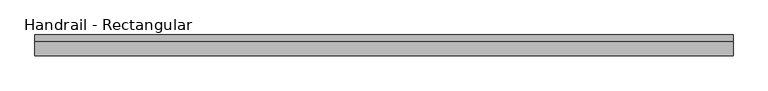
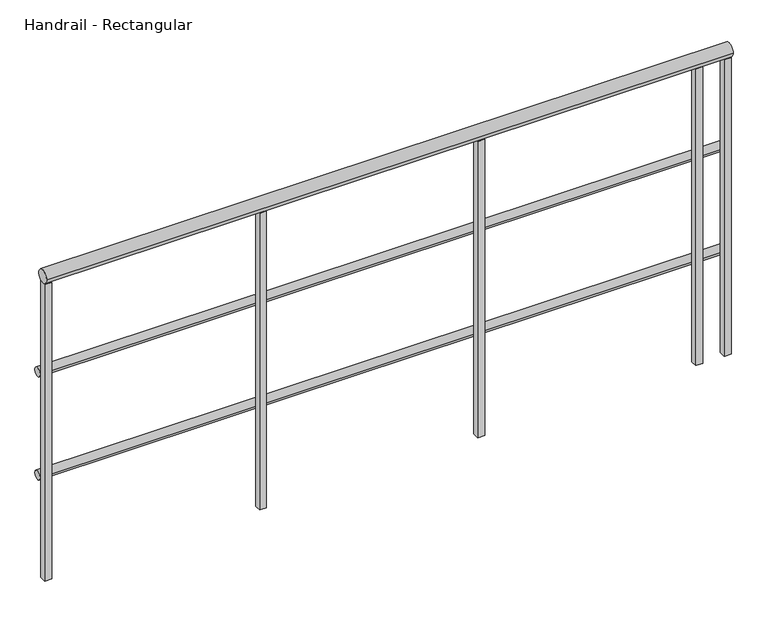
"""IFC4 building model written with IfcOpenShell, lengths in millimetres: railing geometry, Handrail - Rectangular."""

from ifc_helpers import new_model, si_unit, point, frame, frame_2d, origin, place, context, project, spatial, polyline, circle_curve, trimmed, segment, composite_curve, outline, extrude, source, transform, mapped, element, save


def handrail_rectangular_85729334(model_context):
    return source(origin(), model_context, "Body", "SweptSolid", [
        extrude(outline(composite_curve([segment(trimmed(circle_curve(frame_2d((6636.2316867, 9740.9)), 12.7), [point((6648.9316867, 9740.9))], [point((6623.5316867, 9740.9))], False, "CARTESIAN"), True, "CONTINUOUS"), segment(trimmed(circle_curve(frame_2d((6636.2316867, 9740.9)), 12.7), [point((6623.5316867, 9740.9))], [point((6648.9316867, 9740.9))], False, "CARTESIAN"), True, "CONTINUOUS")], self_intersect=False)), frame((-15124.0839563, 0.0, 0.0), z_axis=(1.0, 0.0, 0.0), x_axis=(0.0, 1.0, 0.0)), (0.0, 0.0, 1.0), 1917.7),
        extrude(outline(composite_curve([segment(trimmed(circle_curve(frame_2d((6636.2316867, 9436.1)), 12.7), [point((6648.9316867, 9436.1))], [point((6623.5316867, 9436.1))], False, "CARTESIAN"), True, "CONTINUOUS"), segment(trimmed(circle_curve(frame_2d((6636.2316867, 9436.1)), 12.7), [point((6623.5316867, 9436.1))], [point((6648.9316867, 9436.1))], False, "CARTESIAN"), True, "CONTINUOUS")], self_intersect=False)), frame((-15124.0839563, 0.0, 0.0), z_axis=(1.0, 0.0, 0.0), x_axis=(0.0, 1.0, 0.0)), (0.0, 0.0, 1.0), 1917.7),
        extrude(outline(composite_curve([segment(trimmed(circle_curve(frame_2d((6610.8316867, 10039.35)), 19.05), [point((6629.8816867, 10039.35))], [point((6591.7816867, 10039.35))], False, "CARTESIAN"), True, "CONTINUOUS"), segment(trimmed(circle_curve(frame_2d((6610.8316867, 10039.35)), 19.05), [point((6591.7816867, 10039.35))], [point((6629.8816867, 10039.35))], False, "CARTESIAN"), True, "CONTINUOUS")], self_intersect=False)), frame((-15124.0839563, 0.0, 0.0), z_axis=(1.0, 0.0, 0.0), x_axis=(0.0, 1.0, 0.0)), (0.0, 0.0, 1.0), 1917.7),
        extrude(outline(polyline([(-13304.8089563, 6601.3066867), (-13304.8089563, 6620.3566867), (-13285.7589563, 6620.3566867), (-13285.7589563, 6601.3066867), (-13304.8089563, 6601.3066867)])), frame((0.0, 0.0, 9144.0), z_axis=(0.0, 0.0, 1.0), x_axis=(1.0, 0.0, 0.0)), (0.0, 0.0, 1.0), 876.3),
        extrude(outline(polyline([(-13914.4089563, 6601.3066867), (-13914.4089563, 6620.3566867), (-13895.3589563, 6620.3566867), (-13895.3589563, 6601.3066867), (-13914.4089563, 6601.3066867)])), frame((0.0, 0.0, 9144.0), z_axis=(0.0, 0.0, 1.0), x_axis=(1.0, 0.0, 0.0)), (0.0, 0.0, 1.0), 876.3),
        extrude(outline(polyline([(-14524.0089563, 6601.3066867), (-14524.0089563, 6620.3566867), (-14504.9589563, 6620.3566867), (-14504.9589563, 6601.3066867), (-14524.0089563, 6601.3066867)])), frame((0.0, 0.0, 9144.0), z_axis=(0.0, 0.0, 1.0), x_axis=(1.0, 0.0, 0.0)), (0.0, 0.0, 1.0), 876.3),
        extrude(outline(polyline([(-13225.4339563, 6601.3066867), (-13225.4339563, 6620.3566867), (-13206.3839563, 6620.3566867), (-13206.3839563, 6601.3066867), (-13225.4339563, 6601.3066867)])), frame((0.0, 0.0, 9144.0), z_axis=(0.0, 0.0, 1.0), x_axis=(1.0, 0.0, 0.0)), (0.0, 0.0, 1.0), 876.3),
        extrude(outline(polyline([(-15124.0839563, 6601.3066867), (-15124.0839563, 6620.3566867), (-15105.0339563, 6620.3566867), (-15105.0339563, 6601.3066867), (-15124.0839563, 6601.3066867)])), frame((0.0, 0.0, 9144.0), z_axis=(0.0, 0.0, 1.0), x_axis=(1.0, 0.0, 0.0)), (0.0, 0.0, 1.0), 876.3),
    ])


if __name__ == "__main__":
    model = new_model("IFC4")
    model_context = context("Model", 3, world=origin())
    ifc_project = project(units=[si_unit("LENGTHUNIT", "METRE", prefix="MILLI")], contexts=[model_context])
    site = spatial("IfcSite", under=ifc_project)
    building = spatial("IfcBuilding", under=site)
    placement = place(None, origin())
    handrail_rectangular_shape = handrail_rectangular_85729334(model_context)
    element("IfcRailing", 1, ObjectType="Handrail - Rectangular", at=placement, inside=building, context=model_context, shape_type="MappedRepresentation", body=[
        mapped(handrail_rectangular_shape, transform((0.0, 0.0, 0.0), x_axis=(1.0, 0.0, 0.0), y_axis=(0.0, 1.0, 0.0), z_axis=(0.0, 0.0, 1.0))),
    ])
    save(model, "model.ifc")
